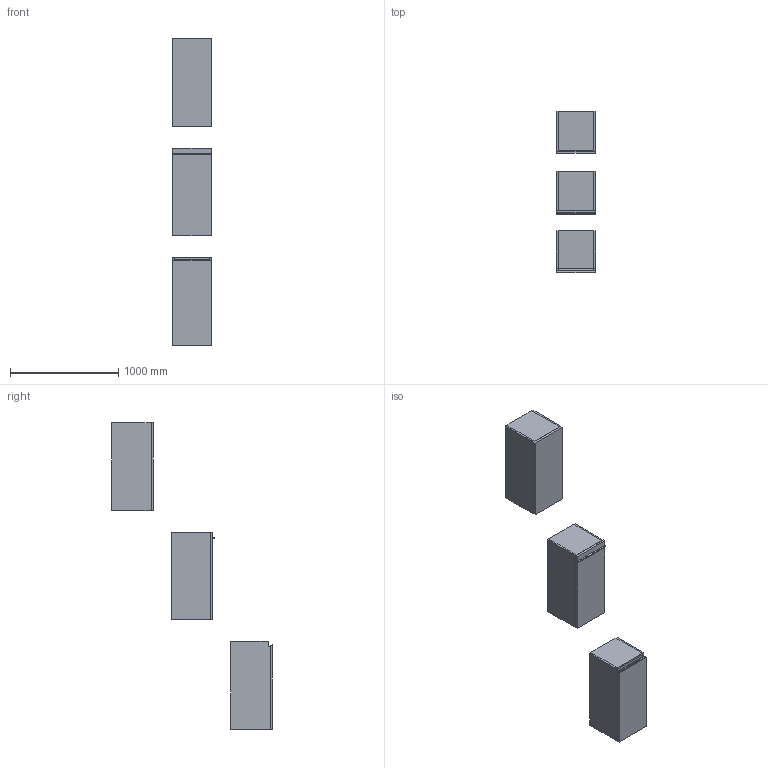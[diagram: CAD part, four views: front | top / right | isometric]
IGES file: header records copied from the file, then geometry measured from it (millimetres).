
Start section: Data from Parasolid IGES Translator 19.0.9, Copyright(c) 2006 Siemens PL M Software. All Rights Reserved.
Global section: file name: noorth-SI-H 81,2 D 38,8 W 36_8688.igs; native system: By Siemens PLM Incorporated; preprocessor: XPlus GENERIC/IGES 19.0.9; author: Noname; organization: Noname; date: 20200601.123827; units: metre
Bounding box: 360.01 x 1485.1 x 2832.01 mm (x, y, z)
Volume: 58371132.2 mm3; surface area: 8798519 mm2
Topology: 20 solids, 20 shells, 178 faces, 382 edges, 234 vertices
Faces by surface type: plane 134, extrusion 16, bspline 16, cylinder 12
